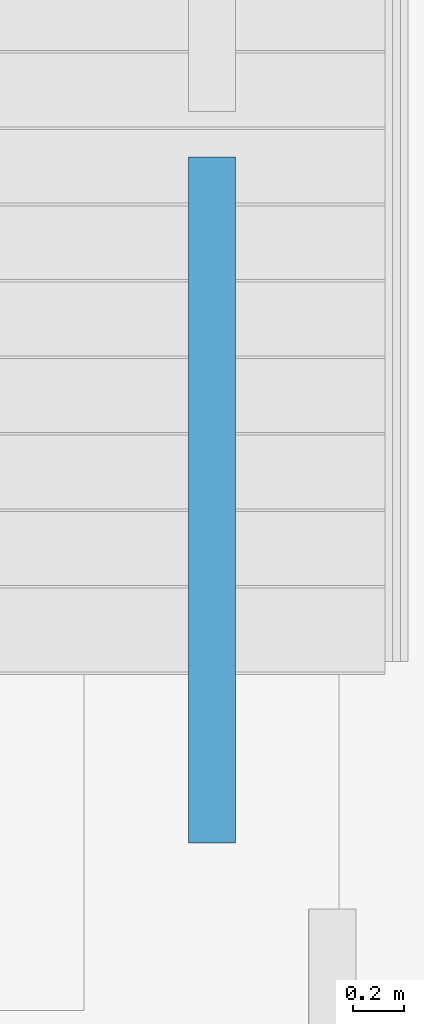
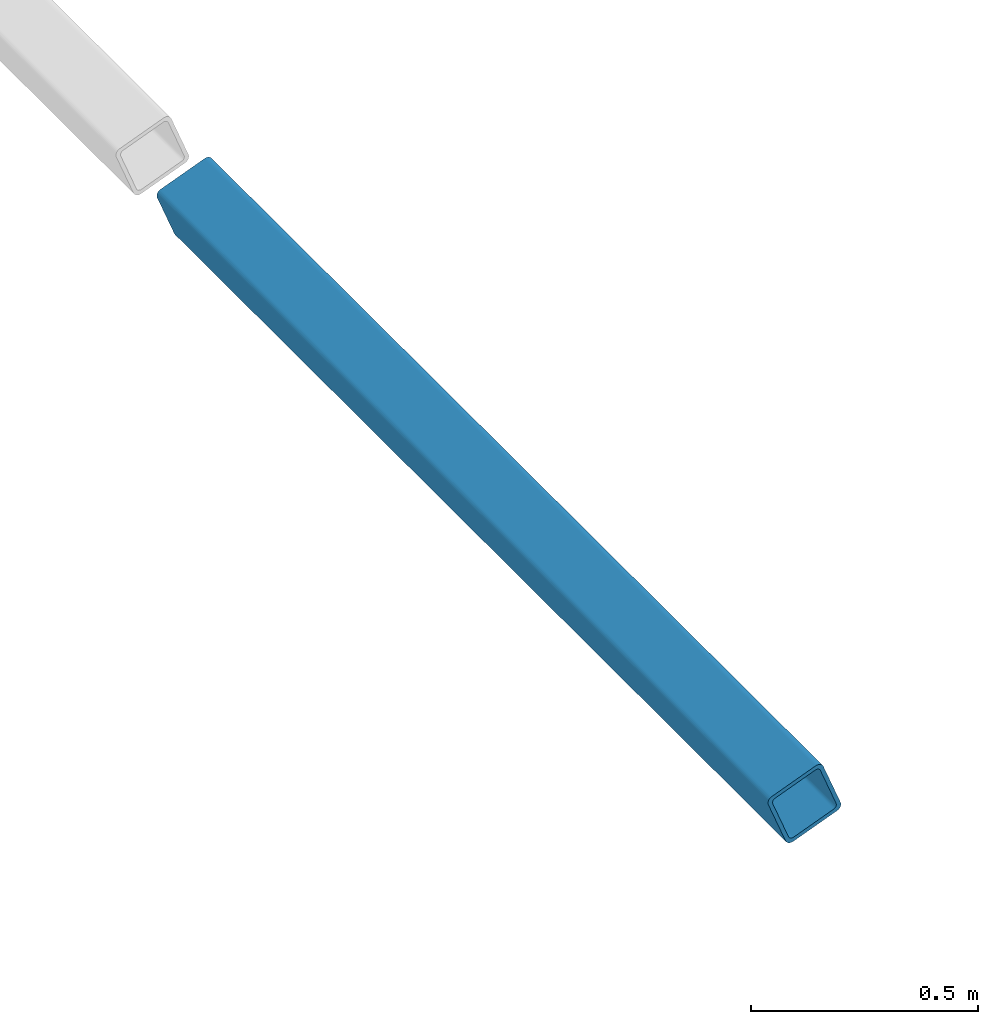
# One storey, part 24 of 42: 1 beam.
"""IFC2X3 building model written with IfcOpenShell, lengths in millimetres."""

import ifcopenshell
import ifcopenshell.guid

model = None  # the IFC model being written
_history = None  # IfcOwnerHistory: only IFC2X3 demands one
_inside = {}  # id of a spatial element -> (the spatial element, [elements in it])
_under = {}  # id of a project, library or spatial element -> (it, [spatial elements below it])
_declared = {}  # id of a project -> (the project, [libraries it declares])
_typed = {}  # id of a type object -> (the type object, [elements of that type])
_made_of = {}  # id of a material, layer set ... -> (it, [elements and type objects made of it])


def new_model(schema):
    """Start an empty IFC model of exactly this schema.

    Asked for "IFC4X3", IfcOpenShell would pick the latest addendum, in which some entities
    have other attributes; the version numbers below select the first issue.
    IFC2X3 requires an IfcOwnerHistory on every rooted entity: one is made here for all.
    """
    global model, _history
    if schema == "IFC4X3":
        model = ifcopenshell.file(schema_version=(4, 3, 0, 0))
    else:
        model = ifcopenshell.file(schema=schema)
    _inside.clear()
    _under.clear()
    _declared.clear()
    _typed.clear()
    _made_of.clear()
    _history = None
    if model.schema == "IFC2X3":
        org = make("IfcOrganization", Name="unknown")
        user = make(
            "IfcPersonAndOrganization",
            ThePerson=make("IfcPerson", FamilyName="unknown"),
            TheOrganization=org,
        )
        app = make(
            "IfcApplication",
            ApplicationDeveloper=org,
            Version="unknown",
            ApplicationFullName="unknown",
            ApplicationIdentifier="unknown",
        )
        _history = make(
            "IfcOwnerHistory",
            OwningUser=user,
            OwningApplication=app,
            ChangeAction="ADDED",
            CreationDate=0,
        )
    return model


def make(cls, **values):
    """One entity of the class cls with the attributes given. An attribute that is None is left unset."""
    return model.create_entity(
        cls, **{name: value for name, value in values.items() if value is not None}
    )


def entity(cls, *values):
    """Any entity or typed value of the class cls, its attributes in the order of the schema. None: left unset."""
    e = model.create_entity(cls)
    for i, value in enumerate(values):
        if value is not None:
            e[i] = value
    return e


def rooted(cls, **values):
    """An entity with a GlobalId (a new one), such as an element, a storey or a relation."""
    return make(cls, GlobalId=ifcopenshell.guid.new(), OwnerHistory=_history, **values)


def si_unit(unit_type, name, prefix=None):
    """IfcSIUnit, for example si_unit("LENGTHUNIT", "METRE", prefix="MILLI")."""
    return make("IfcSIUnit", UnitType=unit_type, Prefix=prefix, Name=name)


def converted_unit(unit_type, name, factor, base, dimensions=None, offset=None):
    """IfcConversionBasedUnit, such as the inch: factor (a typed value) times the base unit."""
    return make(
        "IfcConversionBasedUnit"
        if offset is None
        else "IfcConversionBasedUnitWithOffset",
        ConversionOffset=offset,
        Dimensions=None
        if dimensions is None
        else entity("IfcDimensionalExponents", *dimensions),
        UnitType=unit_type,
        Name=name,
        ConversionFactor=make(
            "IfcMeasureWithUnit", ValueComponent=factor, UnitComponent=base
        ),
    )


def derived_unit(unit_type, elements):
    """IfcDerivedUnit: a product of units, each with its exponent."""
    return make(
        "IfcDerivedUnit",
        Elements=[
            make("IfcDerivedUnitElement", Unit=unit, Exponent=power)
            for unit, power in elements
        ],
        UnitType=unit_type,
    )


def assignment(units):
    """IfcUnitAssignment: the units of a project."""
    return None if units is None else make("IfcUnitAssignment", Units=units)


def point(xyz):
    """IfcCartesianPoint."""
    return None if xyz is None else make("IfcCartesianPoint", Coordinates=xyz)


def direction(xyz):
    """IfcDirection."""
    return None if xyz is None else make("IfcDirection", DirectionRatios=xyz)


def frame(location, z_axis=None, x_axis=None):
    """IfcAxis2Placement3D, a coordinate frame: its origin and axes. An axis left out is left unset."""
    return make(
        "IfcAxis2Placement3D",
        Location=point(location),
        Axis=direction(z_axis),
        RefDirection=direction(x_axis),
    )


def frame_2d(location, x_axis=None):
    """IfcAxis2Placement2D, a coordinate frame in the plane: its origin and x axis."""
    return make(
        "IfcAxis2Placement2D", Location=point(location), RefDirection=direction(x_axis)
    )


def origin():
    """The frame at (0, 0, 0) with its axes left unset."""
    return frame((0.0, 0.0, 0.0))


def place(relative_to, where):
    """IfcLocalPlacement: puts the frame where relative to a parent placement (None: the world)."""
    return make(
        "IfcLocalPlacement", PlacementRelTo=relative_to, RelativePlacement=where
    )


def context(
    kind, dimensions, precision=None, world=None, true_north=None, identifier=None
):
    """IfcGeometricRepresentationContext, for example the 3D "Model" context."""
    return make(
        "IfcGeometricRepresentationContext",
        ContextIdentifier=identifier,
        ContextType=kind,
        CoordinateSpaceDimension=dimensions,
        Precision=precision,
        WorldCoordinateSystem=world,
        TrueNorth=true_north,
    )


def subcontext(parent, identifier, kind, view, scale=None):
    """IfcGeometricRepresentationSubContext, for example "Body" below "Model"."""
    return make(
        "IfcGeometricRepresentationSubContext",
        ContextIdentifier=identifier,
        ContextType=kind,
        ParentContext=parent,
        TargetScale=scale,
        TargetView=view,
    )


def project(units=None, contexts=None):
    """IfcProject with its units and contexts."""
    return rooted(
        "IfcProject",
        Name="project",
        RepresentationContexts=contexts,
        UnitsInContext=assignment(units),
    )


def spatial(cls, under=None, at=None, **own):
    """A site, building, storey or space (cls), placed at a placement, below another one or the project."""
    s = rooted(cls, ObjectPlacement=at, **own)
    if under is not None:
        _under.setdefault(under.id(), (under, []))[1].append(s)
    return s


def polyline(points):
    """IfcPolyline through the points."""
    return make("IfcPolyline", Points=[point(p) for p in points])


def circle_curve(where, radius):
    """IfcCircle in the frame where."""
    return make("IfcCircle", Position=where, Radius=radius)


def parameter(value):
    """IfcParameterValue: where a trimmed curve begins or ends, as a parameter of its basis curve."""
    return model.create_entity("IfcParameterValue", value)


def trimmed(basis, trim1, trim2, sense, master):
    """IfcTrimmedCurve: the piece of a basis curve between two trims."""
    return make(
        "IfcTrimmedCurve",
        BasisCurve=basis,
        Trim1=trim1,
        Trim2=trim2,
        SenseAgreement=sense,
        MasterRepresentation=master,
    )


def segment(curve, same_sense, transition):
    """IfcCompositeCurveSegment."""
    return make(
        "IfcCompositeCurveSegment",
        Transition=transition,
        SameSense=same_sense,
        ParentCurve=curve,
    )


def composite_curve(segments, self_intersect=None):
    """IfcCompositeCurve: segments joined end to end."""
    return make("IfcCompositeCurve", Segments=segments, SelfIntersect=self_intersect)


def outline(outer, holes=None, kind="AREA"):
    """IfcArbitraryClosedProfileDef: a profile drawn as a closed curve; with holes, ...WithVoids."""
    if holes is None:
        return make("IfcArbitraryClosedProfileDef", ProfileType=kind, OuterCurve=outer)
    return make(
        "IfcArbitraryProfileDefWithVoids",
        ProfileType=kind,
        OuterCurve=outer,
        InnerCurves=holes,
    )


def extrude(swept, where, along, depth):
    """IfcExtrudedAreaSolid: the profile swept, set in the frame where, extruded along a direction by depth."""
    return make(
        "IfcExtrudedAreaSolid",
        SweptArea=swept,
        Position=where,
        ExtrudedDirection=direction(along),
        Depth=depth,
    )


def shape(context_of_items, identifier, shape_type, items):
    """IfcShapeRepresentation: the items that make up one representation, for example the "Body"."""
    return make(
        "IfcShapeRepresentation",
        ContextOfItems=context_of_items,
        RepresentationIdentifier=identifier,
        RepresentationType=shape_type,
        Items=items,
    )


def material(Name=None, Category=None):
    """IfcMaterial."""
    return make("IfcMaterial", Name=Name, Category=Category)


def made_of(thing, what):
    """Note that an element or type object is made of a material, layer set ...; save() writes the relation."""
    if what is not None:
        _made_of.setdefault(what.id(), (what, []))[1].append(thing)
    return thing


def type_object(cls, material=None, **own):
    """A type object (cls), such as IfcWallType, which elements share."""
    return made_of(rooted(cls, **own), material)


def element(
    cls,
    number,
    at=None,
    inside=None,
    cuts=None,
    type_object=None,
    material=None,
    context=None,
    identifier="Body",
    shape_type=None,
    held_by="IfcProductDefinitionShape",
    body=None,
    shapes=None,
    **own,
):
    """One element of the class cls, such as IfcWall. Its Tag is "e" and its number.

    at: its placement. inside: the storey or other place that contains it. cuts: it is an
    opening in that element (IfcRelVoidsElement). A single representation is given by context,
    identifier, shape_type and body (its items); several are given by shapes. held_by: the class
    of the entity that holds the representations. save() writes the other relations.
    """
    e = rooted(cls, Tag="e%d" % number, ObjectPlacement=at, **own)
    if body is not None:
        shapes = [shape(context, identifier, shape_type, body)]
    if shapes is not None:
        e.Representation = make(held_by, Representations=shapes)
    if inside is not None:
        _inside.setdefault(inside.id(), (inside, []))[1].append(e)
    if cuts is not None:
        rooted(
            "IfcRelVoidsElement", RelatingBuildingElement=cuts, RelatedOpeningElement=e
        )
    if type_object is not None:
        _typed.setdefault(type_object.id(), (type_object, []))[1].append(e)
    return made_of(e, material)


def aggregate(whole, parts):
    """IfcRelAggregates: a whole, such as a stair, and the parts it consists of."""
    return rooted("IfcRelAggregates", RelatingObject=whole, RelatedObjects=parts)


def save(model, path):
    """Write the relations noted so far, then the file.

    IfcRelAggregates (storeys below a building ...), IfcRelContainedInSpatialStructure (elements
    in a storey), IfcRelDefinesByType, IfcRelAssociatesMaterial and IfcRelDeclares: one each for
    every whole, place, type object, material and project.
    """
    for whole, parts in _under.values():
        aggregate(whole, parts)
    for where, things in _inside.values():
        rooted(
            "IfcRelContainedInSpatialStructure",
            RelatedElements=things,
            RelatingStructure=where,
        )
    for kind, things in _typed.values():
        rooted("IfcRelDefinesByType", RelatedObjects=things, RelatingType=kind)
    for what, things in _made_of.values():
        rooted("IfcRelAssociatesMaterial", RelatedObjects=things, RelatingMaterial=what)
    for by, libraries in _declared.values():
        rooted("IfcRelDeclares", RelatingContext=by, RelatedDefinitions=libraries)
    model.write(path)


model = new_model("IFC2X3")

# Units and contexts
model_context = context("Model", 3, precision=0.01, world=origin(), true_north=direction((6.12303176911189e-17, 1.0)))
body_context = subcontext(model_context, "Body", "Model", "MODEL_VIEW")
ifc_project = project(units=[si_unit("LENGTHUNIT", "METRE", prefix="MILLI"), si_unit("AREAUNIT", "SQUARE_METRE", prefix="MILLI"), si_unit("VOLUMEUNIT", "CUBIC_METRE"), converted_unit("PLANEANGLEUNIT", "DEGREE", entity("IfcRatioMeasure", 0.0174532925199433), si_unit("PLANEANGLEUNIT", "RADIAN"), dimensions=[0, 0, 0, 0, 0, 0, 0]), si_unit("MASSUNIT", "GRAM", prefix="KILO"), derived_unit("MASSDENSITYUNIT", [(si_unit("MASSUNIT", "GRAM", prefix="KILO"), 1), (si_unit("LENGTHUNIT", "METRE"), -3)]), derived_unit("MOMENTOFINERTIAUNIT", [(si_unit("LENGTHUNIT", "METRE"), 4)]), si_unit("TIMEUNIT", "SECOND"), si_unit("FREQUENCYUNIT", "HERTZ"), si_unit("THERMODYNAMICTEMPERATUREUNIT", "DEGREE_CELSIUS"), derived_unit("THERMALTRANSMITTANCEUNIT", [(si_unit("MASSUNIT", "GRAM", prefix="KILO"), 1), (si_unit("THERMODYNAMICTEMPERATUREUNIT", "KELVIN"), -1), (si_unit("TIMEUNIT", "SECOND"), -3)]), derived_unit("VOLUMETRICFLOWRATEUNIT", [(si_unit("LENGTHUNIT", "METRE"), 3), (si_unit("TIMEUNIT", "SECOND"), -1)]), si_unit("ELECTRICCURRENTUNIT", "AMPERE"), si_unit("ELECTRICVOLTAGEUNIT", "VOLT"), si_unit("POWERUNIT", "WATT"), si_unit("FORCEUNIT", "NEWTON", prefix="KILO"), si_unit("ILLUMINANCEUNIT", "LUX"), si_unit("LUMINOUSFLUXUNIT", "LUMEN"), si_unit("LUMINOUSINTENSITYUNIT", "CANDELA"), derived_unit("USERDEFINED", [(si_unit("MASSUNIT", "GRAM", prefix="KILO"), -1), (si_unit("LENGTHUNIT", "METRE"), -2), (si_unit("TIMEUNIT", "SECOND"), 3), (si_unit("LUMINOUSFLUXUNIT", "LUMEN"), 1)]), derived_unit("LINEARVELOCITYUNIT", [(si_unit("LENGTHUNIT", "METRE"), 1), (si_unit("TIMEUNIT", "SECOND"), -1)]), si_unit("PRESSUREUNIT", "PASCAL"), derived_unit("USERDEFINED", [(si_unit("LENGTHUNIT", "METRE"), -2), (si_unit("MASSUNIT", "GRAM", prefix="KILO"), 1), (si_unit("TIMEUNIT", "SECOND"), -2)]), derived_unit("LINEARFORCEUNIT", [(si_unit("MASSUNIT", "GRAM", prefix="KILO"), 1), (si_unit("LENGTHUNIT", "METRE"), 1), (si_unit("TIMEUNIT", "SECOND"), -2), (si_unit("LENGTHUNIT", "METRE"), -1)]), derived_unit("PLANARFORCEUNIT", [(si_unit("MASSUNIT", "GRAM", prefix="KILO"), 1), (si_unit("LENGTHUNIT", "METRE"), 1), (si_unit("TIMEUNIT", "SECOND"), -2), (si_unit("LENGTHUNIT", "METRE"), -2)])], contexts=[model_context])

# Site, building, storey
site_placement = place(None, origin())
site = spatial("IfcSite", under=ifc_project, at=site_placement, Name="Theater aan de Parade", CompositionType="ELEMENT")
building_placement = place(site_placement, origin())
building = spatial("IfcBuilding", under=site, at=building_placement, Name="Theater aan de Parade", CompositionType="ELEMENT")
storey_placement = place(building_placement, frame((0.0, 0.0, -3300.0)))
storey = spatial("IfcBuildingStorey", under=building, at=storey_placement, Name="-1 kelder", CompositionType="ELEMENT", Elevation=-3300.0)

# Beam
ifc_material = material(Name="00_PBT_MAT_staal_S355")
beam_type = type_object("IfcBeamType", Name="28_PBT_SF_staal_koker:S355_K200x200x10", PredefinedType="NOTDEFINED")
beam_placement = place(storey_placement, frame((40358.411642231, 32360.0, 18742.0377397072), z_axis=(0.0, 0.0, 1.0), x_axis=(0.0, -1.0, 0.0)))
element("IfcBeam", 1, at=beam_placement, inside=storey, type_object=beam_type, material=ifc_material, Name="28_PBT_SF_staal_koker:S355_K200x200x10", ObjectType="28_PBT_SF_staal_koker:S355_K200x200x10", context=body_context, shape_type="SweptSolid", body=[
    extrude(outline(composite_curve([segment(polyline([(-60.0, -75.0), (60.0, -75.0)]), True, "CONTINUOUS"), segment(trimmed(circle_curve(frame_2d((60.0, -60.0), x_axis=(0.0, 1.0)), 15.0), [parameter(180.0)], [parameter(270.0)], True, "PARAMETER"), True, "CONTINUOUS"), segment(polyline([(75.0, -60.0), (75.0, 60.0)]), True, "CONTINUOUS"), segment(trimmed(circle_curve(frame_2d((60.0, 60.0), x_axis=(0.0, 1.0)), 15.0), [parameter(270.0)], [parameter(360.0)], True, "PARAMETER"), True, "CONTINUOUS"), segment(polyline([(60.0, 75.0), (-60.0, 75.0)]), True, "CONTINUOUS"), segment(trimmed(circle_curve(frame_2d((-60.0, 60.0), x_axis=(0.0, 1.0)), 15.0), [parameter(0.0)], [parameter(90.0000000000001)], True, "PARAMETER"), True, "CONTINUOUS"), segment(polyline([(-75.0, 60.0), (-75.0, -60.0)]), True, "CONTINUOUS"), segment(trimmed(circle_curve(frame_2d((-60.0, -60.0), x_axis=(0.0, 1.0)), 15.0), [parameter(90.0)], [parameter(180.0)], True, "PARAMETER"), True, "CONTINUOUS")], self_intersect=False), holes=[composite_curve([segment(polyline([(65.0, 55.0), (65.0, -55.0)]), True, "CONTINUOUS"), segment(trimmed(circle_curve(frame_2d((55.0, -55.0), x_axis=(0.0, 1.0)), 10.0), [parameter(180.0)], [parameter(270.0)], True, "PARAMETER"), False, "CONTINUOUS"), segment(polyline([(55.0, -65.0), (-55.0, -65.0)]), True, "CONTINUOUS"), segment(trimmed(circle_curve(frame_2d((-55.0, -55.0), x_axis=(0.0, 1.0)), 10.0), [parameter(90.0)], [parameter(180.0)], True, "PARAMETER"), False, "CONTINUOUS"), segment(polyline([(-65.0, -55.0), (-65.0, 55.0)]), True, "CONTINUOUS"), segment(trimmed(circle_curve(frame_2d((-55.0, 55.0), x_axis=(0.0, 1.0)), 10.0), [parameter(4.07110999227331e-13)], [parameter(90.0000000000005)], True, "PARAMETER"), False, "CONTINUOUS"), segment(polyline([(-55.0, 65.0), (55.0, 65.0)]), True, "CONTINUOUS"), segment(trimmed(circle_curve(frame_2d((55.0, 55.0), x_axis=(0.0, 1.0)), 10.0), [parameter(270.0)], [parameter(0.0)], True, "PARAMETER"), False, "CONTINUOUS")], self_intersect=False)]), frame((0.0, 108.975369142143, -279.50736827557), z_axis=(1.0, 0.0, 0.0), x_axis=(0.0, -0.363251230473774, 0.931691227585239)), (0.0, 0.0, 1.0), 2692.01200857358),
])

save(model, "model.ifc")
